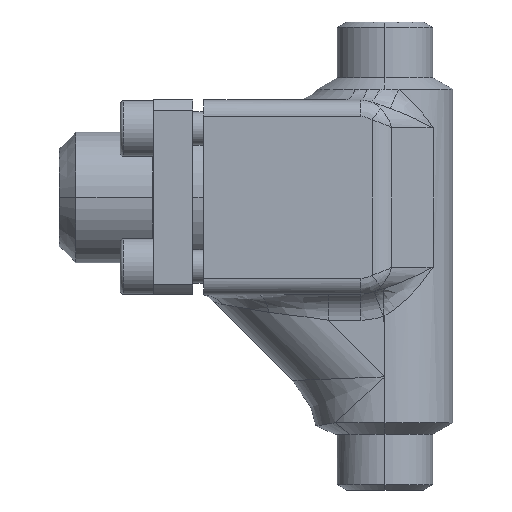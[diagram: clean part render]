
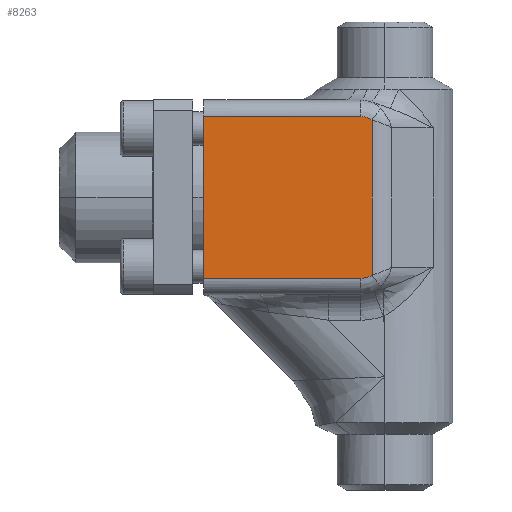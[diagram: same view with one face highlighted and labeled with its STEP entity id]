
A CAD part, left-side view. The second image highlights one B-rep face of the part: STEP entity #8263.
In plain terms, the highlighted planar face has unit normal (-1, 0, 0).
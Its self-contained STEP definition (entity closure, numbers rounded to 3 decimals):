
#1158 = CARTESIAN_POINT ( 'NONE',  ( -17.5, 32.5, -32. ) ) ;
#1251 =( BOUNDED_CURVE ( )  B_SPLINE_CURVE ( 3, ( #1252, #1253, #1254, #1255 ),
 .UNSPECIFIED., .F., .F. ) 
 B_SPLINE_CURVE_WITH_KNOTS ( ( 4, 4 ),
 ( 1.571, 2.356 ),
 .UNSPECIFIED. ) 
 CURVE ( )  GEOMETRIC_REPRESENTATION_ITEM ( )  RATIONAL_B_SPLINE_CURVE ( ( 1., 0.949, 0.949, 1. ) ) 
 REPRESENTATION_ITEM ( '' )  );
#1252 = CARTESIAN_POINT ( 'NONE',  ( -17.5, 4.318, -32. ) ) ;
#1253 = CARTESIAN_POINT ( 'NONE',  ( -17.5, 3.557, -32. ) ) ;
#1254 = CARTESIAN_POINT ( 'NONE',  ( -17.5, 2.855, -31.794 ) ) ;
#1255 = CARTESIAN_POINT ( 'NONE',  ( -17.5, 2.318, -31.414 ) ) ;
#1284 = VERTEX_POINT ( 'NONE', #15080 ) ;
#1352 = CARTESIAN_POINT ( 'NONE',  ( -17.5, 2.318, -3.586 ) ) ;
#1491 = EDGE_CURVE ( 'NONE', #14617, #1284, #15231, .T. ) ;
#1846 = ORIENTED_EDGE ( 'NONE', *, *, #1491, .T. ) ;
#2285 = VERTEX_POINT ( 'NONE', #1158 ) ;
#2532 = VERTEX_POINT ( 'NONE', #1352 ) ;
#2711 = EDGE_CURVE ( 'NONE', #6126, #2532, #4095, .T. ) ;
#2717 = LINE ( 'NONE', #2718, #2719 ) ;
#2718 = CARTESIAN_POINT ( 'NONE',  ( -17.5, 0.247, -32. ) ) ;
#2719 = VECTOR ( 'NONE', #2720, 1000. ) ;
#2720 = DIRECTION ( 'NONE',  ( 0., -1., 0. ) ) ;
#2721 = CARTESIAN_POINT ( 'NONE',  ( -17.5, 4.318, -3. ) ) ;
#2989 = ORIENTED_EDGE ( 'NONE', *, *, #2711, .T. ) ;
#4095 = LINE ( 'NONE', #4096, #4097 ) ;
#4096 = CARTESIAN_POINT ( 'NONE',  ( -17.5, 2.318, -35. ) ) ;
#4097 = VECTOR ( 'NONE', #4100, 1000. ) ;
#4100 = DIRECTION ( 'NONE',  ( 0., 0., 1. ) ) ;
#4265 =( BOUNDED_CURVE ( )  B_SPLINE_CURVE ( 3, ( #4266, #4267, #4268, #4269 ),
 .UNSPECIFIED., .F., .T. ) 
 B_SPLINE_CURVE_WITH_KNOTS ( ( 4, 4 ),
 ( 0.785, 1.571 ),
 .UNSPECIFIED. ) 
 CURVE ( )  GEOMETRIC_REPRESENTATION_ITEM ( )  RATIONAL_B_SPLINE_CURVE ( ( 1., 0.949, 0.949, 1. ) ) 
 REPRESENTATION_ITEM ( '' )  );
#4266 = CARTESIAN_POINT ( 'NONE',  ( -17.5, 2.318, -3.586 ) ) ;
#4267 = CARTESIAN_POINT ( 'NONE',  ( -17.5, 2.855, -3.206 ) ) ;
#4268 = CARTESIAN_POINT ( 'NONE',  ( -17.5, 3.557, -3. ) ) ;
#4269 = CARTESIAN_POINT ( 'NONE',  ( -17.5, 4.318, -3. ) ) ;
#4362 = EDGE_CURVE ( 'NONE', #2285, #1284, #11304, .T. ) ;
#4717 = ORIENTED_EDGE ( 'NONE', *, *, #4362, .F. ) ;
#5527 = VERTEX_POINT ( 'NONE', #13081 ) ;
#6126 = VERTEX_POINT ( 'NONE', #15839 ) ;
#7186 = EDGE_CURVE ( 'NONE', #2285, #5527, #2717, .T. ) ;
#7545 = ORIENTED_EDGE ( 'NONE', *, *, #7186, .T. ) ;
#8037 = EDGE_LOOP ( 'NONE', ( #7545, #11454, #2989, #9115, #1846, #4717 ) ) ;
#8263 = ADVANCED_FACE ( 'NONE', ( #9694 ), #9695, .T. ) ;
#9115 = ORIENTED_EDGE ( 'NONE', *, *, #14796, .T. ) ;
#9694 = FACE_OUTER_BOUND ( 'NONE', #8037, .T. ) ;
#9695 = PLANE ( 'NONE',  #9696 ) ;
#9696 = AXIS2_PLACEMENT_3D ( 'NONE', #9697, #9698, #9699 ) ;
#9697 = CARTESIAN_POINT ( 'NONE',  ( -17.5, 32.5, -35. ) ) ;
#9698 = DIRECTION ( 'NONE',  ( -1., 0., 0. ) ) ;
#9699 = DIRECTION ( 'NONE',  ( 0., -1., 0. ) ) ;
#11304 = LINE ( 'NONE', #11305, #11306 ) ;
#11305 = CARTESIAN_POINT ( 'NONE',  ( -17.5, 32.5, -35. ) ) ;
#11306 = VECTOR ( 'NONE', #11307, 1000. ) ;
#11307 = DIRECTION ( 'NONE',  ( 0., 0., 1. ) ) ;
#11372 = EDGE_CURVE ( 'NONE', #5527, #6126, #1251, .T. ) ;
#11454 = ORIENTED_EDGE ( 'NONE', *, *, #11372, .T. ) ;
#13081 = CARTESIAN_POINT ( 'NONE',  ( -17.5, 4.318, -32. ) ) ;
#14617 = VERTEX_POINT ( 'NONE', #2721 ) ;
#14796 = EDGE_CURVE ( 'NONE', #2532, #14617, #4265, .T. ) ;
#15080 = CARTESIAN_POINT ( 'NONE',  ( -17.5, 32.5, -3. ) ) ;
#15231 = LINE ( 'NONE', #15232, #15233 ) ;
#15232 = CARTESIAN_POINT ( 'NONE',  ( -17.5, 32.5, -3. ) ) ;
#15233 = VECTOR ( 'NONE', #15234, 1000. ) ;
#15234 = DIRECTION ( 'NONE',  ( 0., 1., 0. ) ) ;
#15839 = CARTESIAN_POINT ( 'NONE',  ( -17.5, 2.318, -31.414 ) ) ;
